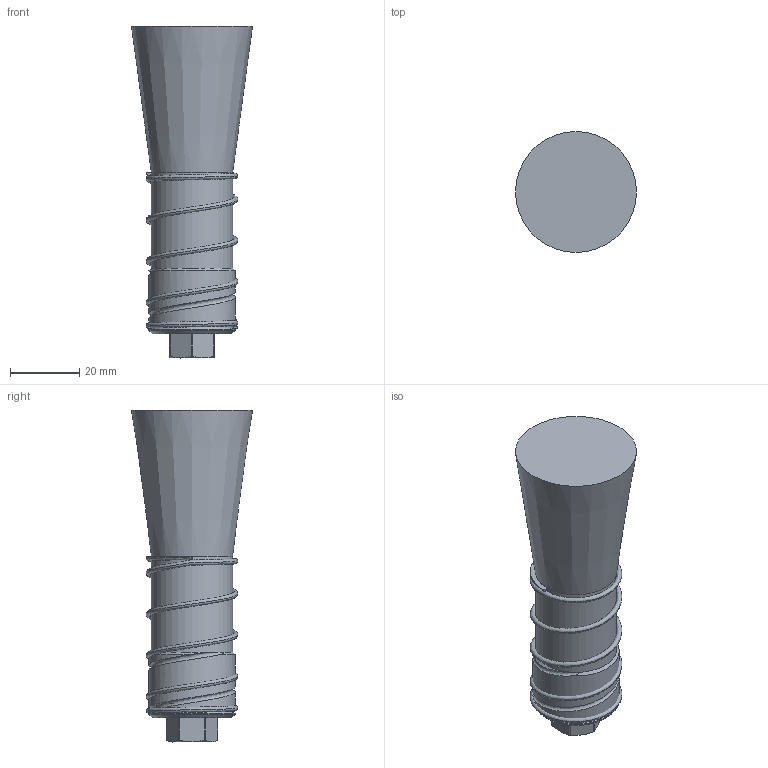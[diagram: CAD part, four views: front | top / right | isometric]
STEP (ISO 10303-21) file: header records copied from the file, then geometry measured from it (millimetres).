
FILE_DESCRIPTION (( 'STEP AP214' ), '1' );
FILE_NAME ('012_0125_0170_02.STEP', '2026-01-21T09:35:26', ( '' ), ( '' ), 'SwSTEP 2.0', 'SolidWorks 2022', '' );
FILE_SCHEMA (( 'AUTOMOTIVE_DESIGN' ));
Length unit declared in the file: millimetre
Products named in the file (3): 012_25_0170_02; VD_207JL_1; 012_0125_0170_02
Assembly tree (2 placements, depth 2):
  012_0125_0170_02
    012_25_0170_02
    VD_207JL_1
Bounding box: 35 x 35 x 96 mm (x, y, z)
Volume: 51265.6 mm3; surface area: 11585.5 mm2
Topology: 2 solids, 2 shells, 42 faces, 101 edges, 66 vertices
Faces by surface type: plane 14, cylinder 12, cone 11, bspline 5
Full cylindrical faces by diameter (mm): 2 x1, 8.57 x1, 23.5 x1, 25 x1
Entity records: 11597 total; most frequent: CARTESIAN_POINT 10652, ORIENTED_EDGE 168, DIRECTION 138, EDGE_CURVE 84, AXIS2_PLACEMENT_3D 59, VERTEX_POINT 59, EDGE_LOOP 53, B_SPLINE_CURVE_WITH_KNOTS 47
